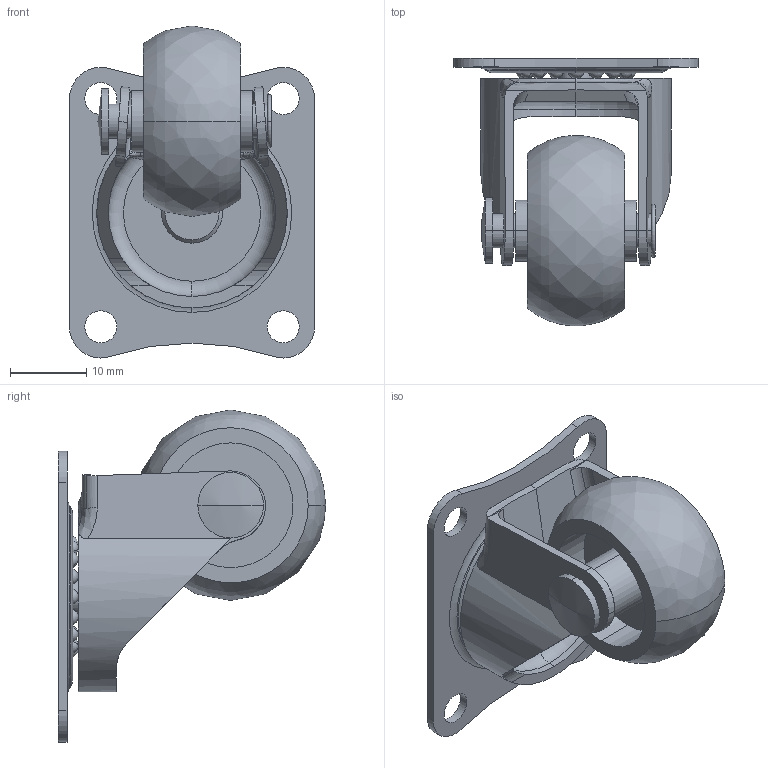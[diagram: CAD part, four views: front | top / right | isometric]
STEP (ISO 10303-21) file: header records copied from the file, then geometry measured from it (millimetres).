
FILE_DESCRIPTION (( 'STEP AP214' ), '1' );
FILE_NAME ('CasterWheel.STEP', '2025-06-27T04:32:50', ( '' ), ( '' ), 'SwSTEP 2.0', 'SolidWorks 2024', '' );
FILE_SCHEMA (( 'AUTOMOTIVE_DESIGN' ));
Length unit declared in the file: millimetre
Products named in the file (8): CasterWheel1.stp; CasterWheel.stp; UpperCasterBody.stp; CasterShaft.stp; Bearings.stp; CasterWheel; MainCasterBody.stp; WheelAxle.stp
Assembly tree (7 placements, depth 3):
  CasterWheel
    CasterWheel.stp
      CasterWheel1.stp
      WheelAxle.stp
      MainCasterBody.stp
      UpperCasterBody.stp
      Bearings.stp
      CasterShaft.stp
Bounding box: 32.15 x 35.1 x 43.57 mm (x, y, z)
Volume: 7670.8 mm3; surface area: 9053 mm2
Topology: 21 solids, 21 shells, 206 faces, 518 edges, 334 vertices
Faces by surface type: cylinder 76, plane 38, sphere 34, torus 24, bspline 18, cone 16
Entity records: 6559 total; most frequent: CARTESIAN_POINT 1784, DIRECTION 939, ORIENTED_EDGE 872, EDGE_CURVE 436, AXIS2_PLACEMENT_3D 410, VERTEX_POINT 286, EDGE_LOOP 238, CIRCLE 211
